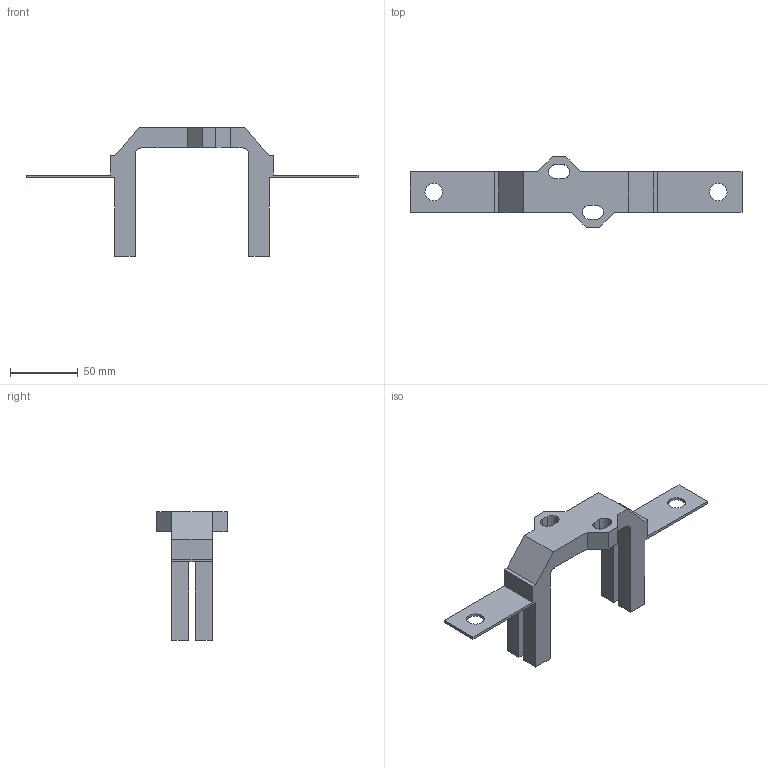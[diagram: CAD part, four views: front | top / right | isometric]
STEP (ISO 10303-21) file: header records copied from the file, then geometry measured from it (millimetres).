
FILE_DESCRIPTION (( 'STEP AP214' ), '1' );
FILE_NAME ('ﾎ魵瑙韃 ﾏﾏﾍ-3-ﾈ2-ﾓﾕﾋ3-ﾊﾝﾀﾇ.STEP', '2023-05-25T07:11:29', ( '' ), ( '' ), 'SwSTEP 2.0', 'SolidWorks 2018', '' );
FILE_SCHEMA (( 'AUTOMOTIVE_DESIGN' ));
Length unit declared in the file: millimetre
Products named in the file (1): ﾎ魵瑙韃 ﾏﾏﾍ-3-ﾈ2-ﾓﾕﾋ3-ﾊﾝﾀﾇ
Bounding box: 245 x 52 x 95 mm (x, y, z)
Volume: 116375.5 mm3; surface area: 36465.4 mm2
Topology: 1 solids, 1 shells, 54 faces, 156 edges, 104 vertices
Faces by surface type: plane 42, cylinder 12
Entity records: 1814 total; most frequent: CARTESIAN_POINT 315, ORIENTED_EDGE 312, DIRECTION 290, EDGE_CURVE 156, VECTOR 132, LINE 132, VERTEX_POINT 104, AXIS2_PLACEMENT_3D 79
